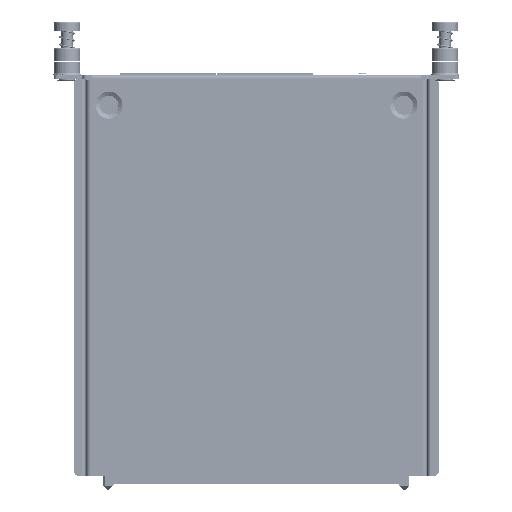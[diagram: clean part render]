
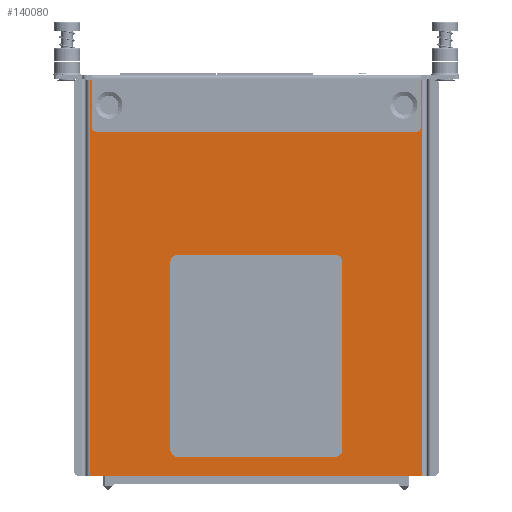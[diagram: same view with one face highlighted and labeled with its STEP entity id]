
A CAD part, front view. The second image highlights one B-rep face of the part: STEP entity #140080.
In plain terms, the highlighted planar face has unit normal (0, -1, 0).
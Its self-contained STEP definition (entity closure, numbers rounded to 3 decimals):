
#11942=DIRECTION('',(0.,0.,-1.));
#11943=VECTOR('',#11942,104.7);
#11944=CARTESIAN_POINT('',(-43.9,-19.3,-0.3));
#11945=LINE('',#11944,#11943);
#11954=CARTESIAN_POINT('',(-42.5,-19.3,-1.3));
#11955=DIRECTION('',(0.,1.,0.));
#11956=DIRECTION('',(0.,0.,1.));
#11957=AXIS2_PLACEMENT_3D('',#11954,#11955,#11956);
#11959=DIRECTION('',(0.,0.,-1.));
#11960=VECTOR('',#11959,0.7);
#11961=CARTESIAN_POINT('',(-41.5,-19.3,-1.3));
#11962=LINE('',#11961,#11960);
#11963=DIRECTION('',(1.,0.,0.));
#11964=VECTOR('',#11963,8.);
#11965=CARTESIAN_POINT('',(-41.5,-19.3,-2.));
#11966=LINE('',#11965,#11964);
#11967=CARTESIAN_POINT('',(-33.5,-19.3,-3.));
#11968=DIRECTION('',(0.,1.,0.));
#11969=DIRECTION('',(0.,0.,1.));
#11970=AXIS2_PLACEMENT_3D('',#11967,#11968,#11969);
#11972=DIRECTION('',(1.,0.,0.));
#11973=VECTOR('',#11972,65.);
#11974=CARTESIAN_POINT('',(-32.5,-19.3,-12.));
#11975=LINE('',#11974,#11973);
#11976=DIRECTION('',(0.,0.,1.));
#11977=VECTOR('',#11976,9.);
#11978=CARTESIAN_POINT('',(32.5,-19.3,-12.));
#11979=LINE('',#11978,#11977);
#11980=CARTESIAN_POINT('',(33.5,-19.3,-3.));
#11981=DIRECTION('',(0.,1.,0.));
#11982=DIRECTION('',(-1.,0.,0.));
#11983=AXIS2_PLACEMENT_3D('',#11980,#11981,#11982);
#11985=DIRECTION('',(1.,0.,0.));
#11986=VECTOR('',#11985,8.);
#11987=CARTESIAN_POINT('',(33.5,-19.3,-2.));
#11988=LINE('',#11987,#11986);
#11989=DIRECTION('',(0.,0.,1.));
#11990=VECTOR('',#11989,0.7);
#11991=CARTESIAN_POINT('',(41.5,-19.3,-2.));
#11992=LINE('',#11991,#11990);
#11993=CARTESIAN_POINT('',(42.5,-19.3,-1.3));
#11994=DIRECTION('',(0.,1.,0.));
#11995=DIRECTION('',(-1.,0.,0.));
#11996=AXIS2_PLACEMENT_3D('',#11993,#11994,#11995);
#11998=DIRECTION('',(1.,0.,0.));
#11999=VECTOR('',#11998,1.4);
#12000=CARTESIAN_POINT('',(42.5,-19.3,-0.3));
#12001=LINE('',#12000,#11999);
#12002=DIRECTION('',(1.,0.,0.));
#12003=VECTOR('',#12002,1.4);
#12004=CARTESIAN_POINT('',(-43.9,-19.3,-0.3));
#12005=LINE('',#12004,#12003);
#12006=CARTESIAN_POINT('',(-39.,-19.3,-7.));
#12007=DIRECTION('',(0.,-1.,0.));
#12008=DIRECTION('',(1.,0.,0.));
#12009=AXIS2_PLACEMENT_3D('',#12006,#12007,#12008);
#12011=CARTESIAN_POINT('',(-39.,-19.3,-7.));
#12012=DIRECTION('',(0.,-1.,0.));
#12013=DIRECTION('',(-1.,0.,0.));
#12014=AXIS2_PLACEMENT_3D('',#12011,#12012,#12013);
#12016=CARTESIAN_POINT('',(39.,-19.3,-7.));
#12017=DIRECTION('',(0.,-1.,0.));
#12018=DIRECTION('',(1.,0.,0.));
#12019=AXIS2_PLACEMENT_3D('',#12016,#12017,#12018);
#12021=CARTESIAN_POINT('',(39.,-19.3,-7.));
#12022=DIRECTION('',(0.,-1.,0.));
#12023=DIRECTION('',(-1.,0.,0.));
#12024=AXIS2_PLACEMENT_3D('',#12021,#12022,#12023);
#12026=DIRECTION('',(0.,0.,-1.));
#12027=VECTOR('',#12026,49.5);
#12028=CARTESIAN_POINT('',(-22.75,-19.3,-48.55));
#12029=LINE('',#12028,#12027);
#12030=CARTESIAN_POINT('',(-20.75,-19.3,-98.05));
#12031=DIRECTION('',(0.,-1.,0.));
#12032=DIRECTION('',(-1.,0.,0.));
#12033=AXIS2_PLACEMENT_3D('',#12030,#12031,#12032);
#12035=DIRECTION('',(1.,0.,0.));
#12036=VECTOR('',#12035,41.5);
#12037=CARTESIAN_POINT('',(-20.75,-19.3,-100.05));
#12038=LINE('',#12037,#12036);
#12039=CARTESIAN_POINT('',(20.75,-19.3,-98.05));
#12040=DIRECTION('',(0.,-1.,0.));
#12041=DIRECTION('',(0.,0.,-1.));
#12042=AXIS2_PLACEMENT_3D('',#12039,#12040,#12041);
#12044=DIRECTION('',(0.,0.,1.));
#12045=VECTOR('',#12044,49.5);
#12046=CARTESIAN_POINT('',(22.75,-19.3,-98.05));
#12047=LINE('',#12046,#12045);
#12048=CARTESIAN_POINT('',(20.75,-19.3,-48.55));
#12049=DIRECTION('',(0.,-1.,0.));
#12050=DIRECTION('',(1.,0.,0.));
#12051=AXIS2_PLACEMENT_3D('',#12048,#12049,#12050);
#12053=DIRECTION('',(-1.,0.,0.));
#12054=VECTOR('',#12053,41.5);
#12055=CARTESIAN_POINT('',(20.75,-19.3,-46.55));
#12056=LINE('',#12055,#12054);
#12057=CARTESIAN_POINT('',(-20.75,-19.3,-48.55));
#12058=DIRECTION('',(0.,-1.,0.));
#12059=DIRECTION('',(0.,0.,1.));
#12060=AXIS2_PLACEMENT_3D('',#12057,#12058,#12059);
#13046=DIRECTION('',(1.,0.,0.));
#13047=VECTOR('',#13046,87.8);
#13048=CARTESIAN_POINT('',(-43.9,-19.3,-105.));
#13049=LINE('',#13048,#13047);
#13067=DIRECTION('',(0.,0.,1.));
#13068=VECTOR('',#13067,104.7);
#13069=CARTESIAN_POINT('',(43.9,-19.3,-105.));
#13070=LINE('',#13069,#13068);
#13158=DIRECTION('',(0.,0.,1.));
#13159=VECTOR('',#13158,9.);
#13160=CARTESIAN_POINT('',(-32.5,-19.3,-12.));
#13161=LINE('',#13160,#13159);
#99496=CARTESIAN_POINT('',(-43.9,-19.3,-105.));
#99497=VERTEX_POINT('',#99496);
#99498=CARTESIAN_POINT('',(-43.9,-19.3,-0.3));
#99499=VERTEX_POINT('',#99498);
#99500=CARTESIAN_POINT('',(-42.5,-19.3,-0.3));
#99502=VERTEX_POINT('',#99500);
#99506=CARTESIAN_POINT('',(-41.5,-19.3,-1.3));
#99507=VERTEX_POINT('',#99506);
#99510=CARTESIAN_POINT('',(-41.5,-19.3,-2.));
#99511=VERTEX_POINT('',#99510);
#99512=CARTESIAN_POINT('',(-33.5,-19.3,-2.));
#99513=VERTEX_POINT('',#99512);
#99514=CARTESIAN_POINT('',(-32.5,-19.3,-3.));
#99515=VERTEX_POINT('',#99514);
#99516=CARTESIAN_POINT('',(-32.5,-19.3,-12.));
#99517=VERTEX_POINT('',#99516);
#99518=CARTESIAN_POINT('',(32.5,-19.3,-12.));
#99519=VERTEX_POINT('',#99518);
#99520=CARTESIAN_POINT('',(32.5,-19.3,-3.));
#99521=VERTEX_POINT('',#99520);
#99522=CARTESIAN_POINT('',(33.5,-19.3,-2.));
#99523=VERTEX_POINT('',#99522);
#99524=CARTESIAN_POINT('',(41.5,-19.3,-2.));
#99525=VERTEX_POINT('',#99524);
#99526=CARTESIAN_POINT('',(41.5,-19.3,-1.3));
#99527=VERTEX_POINT('',#99526);
#99528=CARTESIAN_POINT('',(42.5,-19.3,-0.3));
#99529=VERTEX_POINT('',#99528);
#99530=CARTESIAN_POINT('',(43.9,-19.3,-0.3));
#99531=VERTEX_POINT('',#99530);
#99532=CARTESIAN_POINT('',(43.9,-19.3,-105.));
#99533=VERTEX_POINT('',#99532);
#99534=CARTESIAN_POINT('',(-37.45,-19.3,-7.));
#99535=CARTESIAN_POINT('',(-40.55,-19.3,-7.));
#99536=VERTEX_POINT('',#99534);
#99537=VERTEX_POINT('',#99535);
#99538=CARTESIAN_POINT('',(40.55,-19.3,-7.));
#99539=CARTESIAN_POINT('',(37.45,-19.3,-7.));
#99540=VERTEX_POINT('',#99538);
#99541=VERTEX_POINT('',#99539);
#99542=CARTESIAN_POINT('',(-22.75,-19.3,-48.55));
#99543=CARTESIAN_POINT('',(-22.75,-19.3,-98.05));
#99544=VERTEX_POINT('',#99542);
#99545=VERTEX_POINT('',#99543);
#99546=CARTESIAN_POINT('',(-20.75,-19.3,-100.05));
#99547=VERTEX_POINT('',#99546);
#99548=CARTESIAN_POINT('',(20.75,-19.3,-100.05));
#99549=VERTEX_POINT('',#99548);
#99550=CARTESIAN_POINT('',(22.75,-19.3,-98.05));
#99551=VERTEX_POINT('',#99550);
#99552=CARTESIAN_POINT('',(22.75,-19.3,-48.55));
#99553=VERTEX_POINT('',#99552);
#99554=CARTESIAN_POINT('',(20.75,-19.3,-46.55));
#99555=VERTEX_POINT('',#99554);
#99556=CARTESIAN_POINT('',(-20.75,-19.3,-46.55));
#99557=VERTEX_POINT('',#99556);
#140013=CARTESIAN_POINT('',(0.,-19.3,0.));
#140014=DIRECTION('',(0.,1.,0.));
#140015=DIRECTION('',(1.,0.,0.));
#140016=AXIS2_PLACEMENT_3D('',#140013,#140014,#140015);
#140017=PLANE('',#140016);
#140018=ORIENTED_EDGE('',*,*,#139995,.T.);
#140020=ORIENTED_EDGE('',*,*,#140019,.T.);
#140022=ORIENTED_EDGE('',*,*,#140021,.T.);
#140024=ORIENTED_EDGE('',*,*,#140023,.T.);
#140026=ORIENTED_EDGE('',*,*,#140025,.F.);
#140028=ORIENTED_EDGE('',*,*,#140027,.T.);
#140030=ORIENTED_EDGE('',*,*,#140029,.T.);
#140032=ORIENTED_EDGE('',*,*,#140031,.T.);
#140034=ORIENTED_EDGE('',*,*,#140033,.T.);
#140036=ORIENTED_EDGE('',*,*,#140035,.T.);
#140038=ORIENTED_EDGE('',*,*,#140037,.T.);
#140040=ORIENTED_EDGE('',*,*,#140039,.T.);
#140042=ORIENTED_EDGE('',*,*,#140041,.F.);
#140044=ORIENTED_EDGE('',*,*,#140043,.F.);
#140045=ORIENTED_EDGE('',*,*,#139977,.F.);
#140047=ORIENTED_EDGE('',*,*,#140046,.T.);
#140048=EDGE_LOOP('',(#140018,#140020,#140022,#140024,#140026,#140028,#140030,
#140032,#140034,#140036,#140038,#140040,#140042,#140044,#140045,#140047));
#140049=FACE_OUTER_BOUND('',#140048,.F.);
#140051=ORIENTED_EDGE('',*,*,#140050,.T.);
#140053=ORIENTED_EDGE('',*,*,#140052,.T.);
#140054=EDGE_LOOP('',(#140051,#140053));
#140055=FACE_BOUND('',#140054,.F.);
#140057=ORIENTED_EDGE('',*,*,#140056,.T.);
#140059=ORIENTED_EDGE('',*,*,#140058,.T.);
#140060=EDGE_LOOP('',(#140057,#140059));
#140061=FACE_BOUND('',#140060,.F.);
#140063=ORIENTED_EDGE('',*,*,#140062,.T.);
#140065=ORIENTED_EDGE('',*,*,#140064,.T.);
#140067=ORIENTED_EDGE('',*,*,#140066,.T.);
#140069=ORIENTED_EDGE('',*,*,#140068,.T.);
#140071=ORIENTED_EDGE('',*,*,#140070,.T.);
#140073=ORIENTED_EDGE('',*,*,#140072,.T.);
#140075=ORIENTED_EDGE('',*,*,#140074,.T.);
#140077=ORIENTED_EDGE('',*,*,#140076,.T.);
#140078=EDGE_LOOP('',(#140063,#140065,#140067,#140069,#140071,#140073,#140075,
#140077));
#140079=FACE_BOUND('',#140078,.F.);
#11958=CIRCLE('',#11957,1.);
#11971=CIRCLE('',#11970,1.);
#11984=CIRCLE('',#11983,1.);
#11997=CIRCLE('',#11996,1.);
#12010=CIRCLE('',#12009,1.55);
#12015=CIRCLE('',#12014,1.55);
#12020=CIRCLE('',#12019,1.55);
#12025=CIRCLE('',#12024,1.55);
#12034=CIRCLE('',#12033,2.);
#12043=CIRCLE('',#12042,2.);
#12052=CIRCLE('',#12051,2.);
#12061=CIRCLE('',#12060,2.);
#139977=EDGE_CURVE('',#99499,#99497,#11945,.T.);
#139995=EDGE_CURVE('',#99502,#99507,#11958,.T.);
#140019=EDGE_CURVE('',#99507,#99511,#11962,.T.);
#140021=EDGE_CURVE('',#99511,#99513,#11966,.T.);
#140023=EDGE_CURVE('',#99513,#99515,#11971,.T.);
#140025=EDGE_CURVE('',#99517,#99515,#13161,.T.);
#140027=EDGE_CURVE('',#99517,#99519,#11975,.T.);
#140029=EDGE_CURVE('',#99519,#99521,#11979,.T.);
#140031=EDGE_CURVE('',#99521,#99523,#11984,.T.);
#140033=EDGE_CURVE('',#99523,#99525,#11988,.T.);
#140035=EDGE_CURVE('',#99525,#99527,#11992,.T.);
#140037=EDGE_CURVE('',#99527,#99529,#11997,.T.);
#140039=EDGE_CURVE('',#99529,#99531,#12001,.T.);
#140041=EDGE_CURVE('',#99533,#99531,#13070,.T.);
#140043=EDGE_CURVE('',#99497,#99533,#13049,.T.);
#140046=EDGE_CURVE('',#99499,#99502,#12005,.T.);
#140050=EDGE_CURVE('',#99536,#99537,#12010,.T.);
#140052=EDGE_CURVE('',#99537,#99536,#12015,.T.);
#140056=EDGE_CURVE('',#99540,#99541,#12020,.T.);
#140058=EDGE_CURVE('',#99541,#99540,#12025,.T.);
#140062=EDGE_CURVE('',#99544,#99545,#12029,.T.);
#140064=EDGE_CURVE('',#99545,#99547,#12034,.T.);
#140066=EDGE_CURVE('',#99547,#99549,#12038,.T.);
#140068=EDGE_CURVE('',#99549,#99551,#12043,.T.);
#140070=EDGE_CURVE('',#99551,#99553,#12047,.T.);
#140072=EDGE_CURVE('',#99553,#99555,#12052,.T.);
#140074=EDGE_CURVE('',#99555,#99557,#12056,.T.);
#140076=EDGE_CURVE('',#99557,#99544,#12061,.T.);
#140080=ADVANCED_FACE('',(#140049,#140055,#140061,#140079),#140017,.F.);
